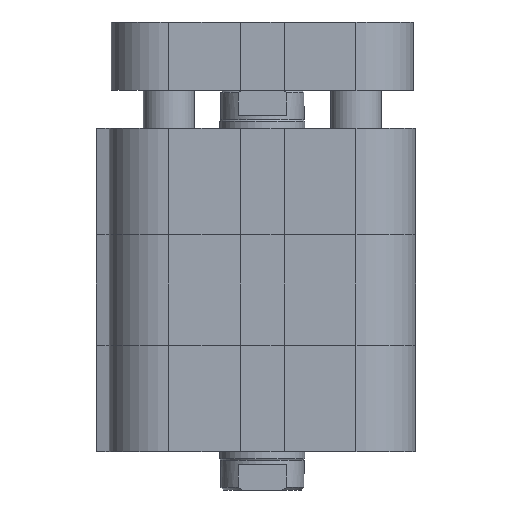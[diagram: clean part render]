
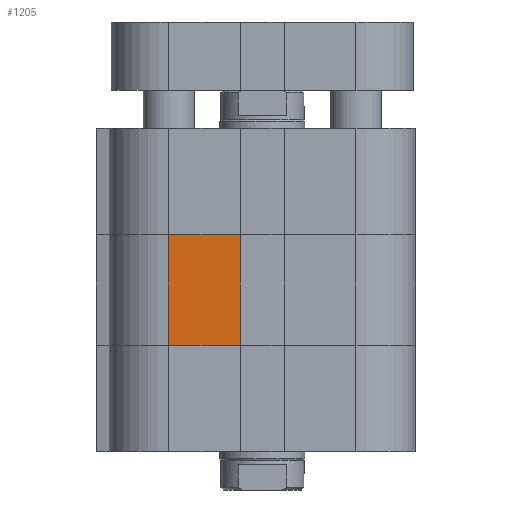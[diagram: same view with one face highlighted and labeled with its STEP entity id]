
A CAD part, left-side view. The second image highlights one B-rep face of the part: STEP entity #1205.
In plain terms, the highlighted planar face has unit normal (-1, 0, 0).
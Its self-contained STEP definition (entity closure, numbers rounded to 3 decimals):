
#1116=CARTESIAN_POINT('',(-18.,11.0,12.5));
#1117=VERTEX_POINT('',#1116);
#1125=CARTESIAN_POINT('',(-18.,11.0,25.5));
#1126=VERTEX_POINT('',#1125);
#1127=CARTESIAN_POINT('',(-18.,11.0,12.5));
#1128=DIRECTION('',(0.0,0.0,1.0));
#1129=VECTOR('',#1128,13.);
#1130=LINE('',#1127,#1129);
#1131=EDGE_CURVE('',#1117,#1126,#1130,.T.);
#1175=CARTESIAN_POINT('',(-18.0,2.6,0.0));
#1176=DIRECTION('',(-1.0,0.0,0.0));
#1177=DIRECTION('',(0.0,0.0,1.0));
#1178=AXIS2_PLACEMENT_3D('',#1175,#1176,#1177);
#1179=PLANE('',#1178);
#1180=CARTESIAN_POINT('',(-18.0,2.6,12.5));
#1181=VERTEX_POINT('',#1180);
#1182=CARTESIAN_POINT('',(-18.,11.0,12.5));
#1183=DIRECTION('',(0.0,-1.0,0.0));
#1184=VECTOR('',#1183,8.4);
#1185=LINE('',#1182,#1184);
#1186=EDGE_CURVE('',#1117,#1181,#1185,.T.);
#1187=ORIENTED_EDGE('',*,*,#1186,.T.);
#1188=CARTESIAN_POINT('',(-18.0,2.6,25.5));
#1189=VERTEX_POINT('',#1188);
#1190=CARTESIAN_POINT('',(-18.0,2.6,12.5));
#1191=DIRECTION('',(0.0,0.0,1.0));
#1192=VECTOR('',#1191,13.);
#1193=LINE('',#1190,#1192);
#1194=EDGE_CURVE('',#1181,#1189,#1193,.T.);
#1195=ORIENTED_EDGE('',*,*,#1194,.T.);
#1196=CARTESIAN_POINT('',(-18.,11.0,25.5));
#1197=DIRECTION('',(0.0,-1.0,0.0));
#1198=VECTOR('',#1197,8.4);
#1199=LINE('',#1196,#1198);
#1200=EDGE_CURVE('',#1126,#1189,#1199,.T.);
#1201=ORIENTED_EDGE('',*,*,#1200,.F.);
#1202=ORIENTED_EDGE('',*,*,#1131,.F.);
#1203=EDGE_LOOP('',(#1187,#1195,#1201,#1202));
#1204=FACE_OUTER_BOUND('',#1203,.T.);
#1205=ADVANCED_FACE('',(#1204),#1179,.T.);
